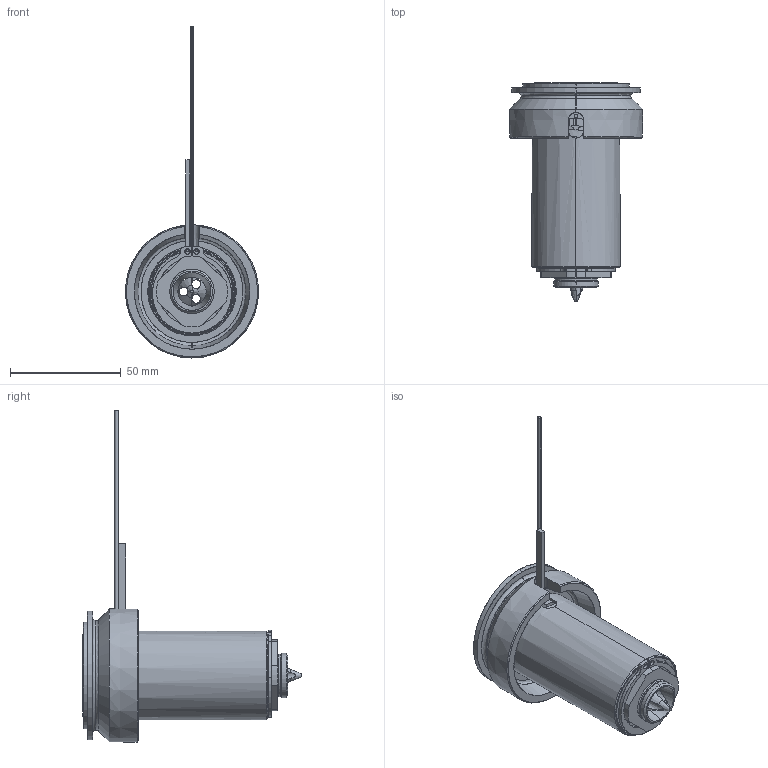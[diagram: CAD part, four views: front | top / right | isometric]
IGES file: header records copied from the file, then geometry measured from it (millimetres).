
Start section: SolidWorks IGES file using analytic representation for surfaces
Global section: file name: C:\Documents and Settings\ws-20\Desktop\TEM\UGEP6003-M-A-1 [Øf-1.3 ØC-15].IGS; native system: SolidWorks 2012; preprocessor: SolidWorks 2012; author: ws-20; date: 120427.092539; units: millimetre
Bounding box: 60 x 99.05 x 149.65 mm (x, y, z)
Surface area: 47375.6 mm2 (no closed solid volume)
Topology: 0 solids, 0 shells, 131 faces, 2551 edges, 2551 vertices
Faces by surface type: revolution 81, bspline 50
